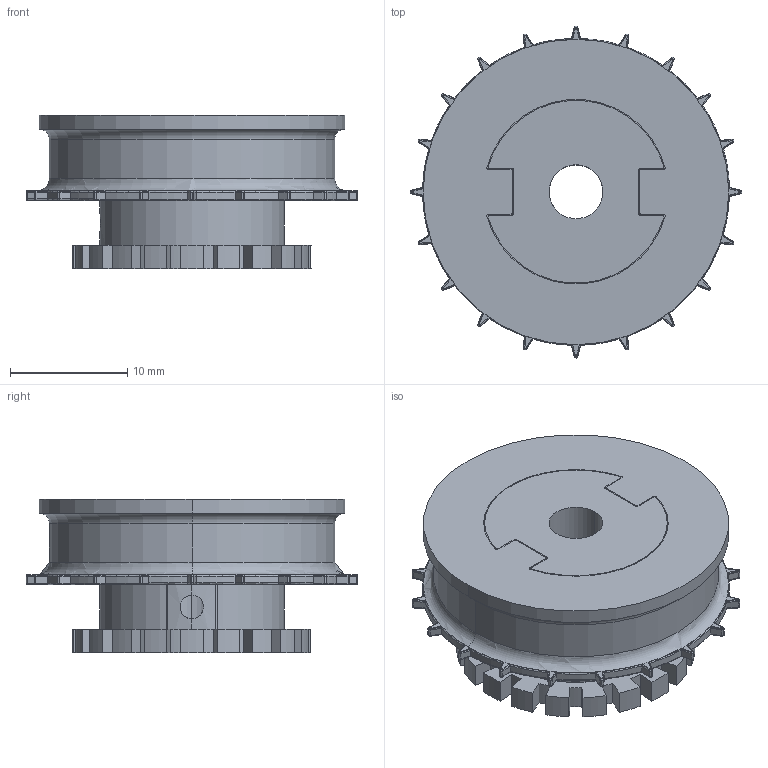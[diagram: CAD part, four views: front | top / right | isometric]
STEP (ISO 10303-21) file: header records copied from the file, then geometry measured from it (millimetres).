
FILE_DESCRIPTION(('STEP AP214'),'1');
FILE_NAME('capstan-s8-Notches20T v00.stp','2021-05-06T13:27:10',(' '),(' '),'Spatial InterOp 3D',' ',' ');
FILE_SCHEMA(('AUTOMOTIVE_DESIGN { 1 0 10303 214 1 1 1 1 }'));
Length unit declared in the file: metre
Products named in the file (4): capstan-s8-Notches20T v00; tooth original; Pulley 20T; Noches 20N
Assembly tree (3 placements, depth 2):
  capstan-s8-Notches20T v00
    tooth original
    Pulley 20T
    Noches 20N
Bounding box: 28.33 x 28.33 x 13.09 mm (x, y, z)
Volume: 9248.8 mm3; surface area: 6015.9 mm2
Topology: 3 solids, 3 shells, 1094 faces, 2902 edges, 1811 vertices
Faces by surface type: cylinder 586, plane 262, torus 246
Entity records: 44768 total; most frequent: CARTESIAN_POINT 18368, ORIENTED_EDGE 5790, DIRECTION 5272, EDGE_CURVE 2895, AXIS2_PLACEMENT_3D 2049, VERTEX_POINT 1811, LINE 1174, VECTOR 1174
